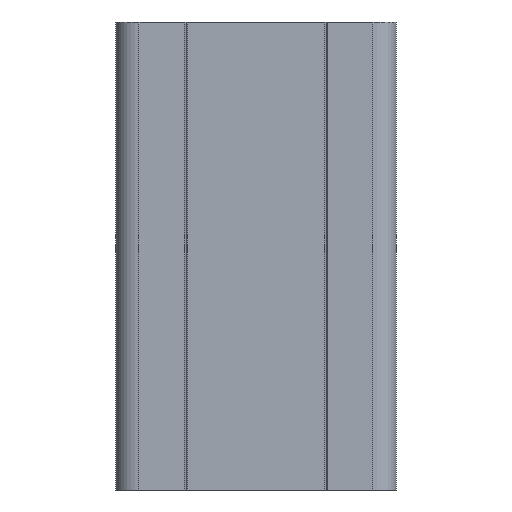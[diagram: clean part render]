
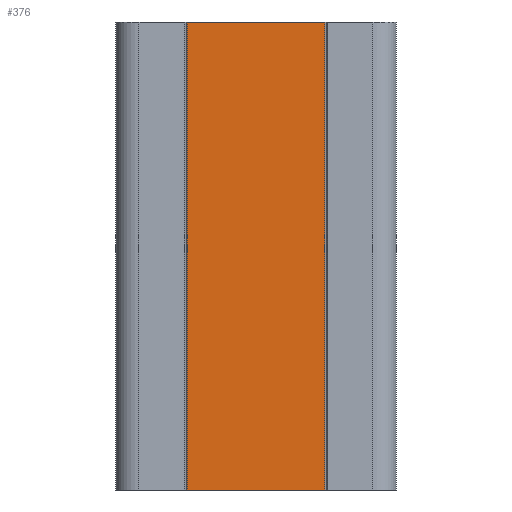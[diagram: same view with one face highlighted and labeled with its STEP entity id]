
A CAD part, front view. The second image highlights one B-rep face of the part: STEP entity #376.
In plain terms, the highlighted planar face has unit normal (0, -1, 0).
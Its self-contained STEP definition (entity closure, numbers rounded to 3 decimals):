
#8 = ORIENTED_EDGE ( 'NONE', *, *, #243, .F. ) ;
#72 = CARTESIAN_POINT ( 'NONE',  ( -14.711, -2.5, -50. ) ) ;
#129 = VERTEX_POINT ( 'NONE', #131 ) ;
#131 = CARTESIAN_POINT ( 'NONE',  ( 14.711, -2.5, 50. ) ) ;
#134 = VECTOR ( 'NONE', #287, 1000. ) ;
#140 = PLANE ( 'NONE',  #353 ) ;
#146 = VERTEX_POINT ( 'NONE', #363 ) ;
#150 = EDGE_CURVE ( 'NONE', #160, #129, #269, .T. ) ;
#159 = LINE ( 'NONE', #320, #134 ) ;
#160 = VERTEX_POINT ( 'NONE', #168 ) ;
#168 = CARTESIAN_POINT ( 'NONE',  ( -14.711, -2.5, 50. ) ) ;
#177 = ORIENTED_EDGE ( 'NONE', *, *, #150, .F. ) ;
#180 = DIRECTION ( 'NONE',  ( 0., 0., 1. ) ) ;
#184 = ORIENTED_EDGE ( 'NONE', *, *, #422, .T. ) ;
#191 = DIRECTION ( 'NONE',  ( 1., 0., 0. ) ) ;
#197 = EDGE_CURVE ( 'NONE', #425, #129, #335, .T. ) ;
#206 = CARTESIAN_POINT ( 'NONE',  ( 14.711, -2.5, -50. ) ) ;
#214 = ORIENTED_EDGE ( 'NONE', *, *, #197, .T. ) ;
#236 = DIRECTION ( 'NONE',  ( 1., 0., 0. ) ) ;
#242 = CARTESIAN_POINT ( 'NONE',  ( -14.711, -2.5, 50. ) ) ;
#243 = EDGE_CURVE ( 'NONE', #146, #160, #377, .T. ) ;
#269 = LINE ( 'NONE', #242, #359 ) ;
#274 = DIRECTION ( 'NONE',  ( 0., -1., 0. ) ) ;
#283 = VECTOR ( 'NONE', #180, 1000. ) ;
#287 = DIRECTION ( 'NONE',  ( 1., 0., 0. ) ) ;
#316 = EDGE_LOOP ( 'NONE', ( #177, #8, #184, #214 ) ) ;
#317 = CARTESIAN_POINT ( 'NONE',  ( 14.711, -2.5, -50. ) ) ;
#320 = CARTESIAN_POINT ( 'NONE',  ( -14.711, -2.5, -50. ) ) ;
#330 = DIRECTION ( 'NONE',  ( 0., 0., 1. ) ) ;
#335 = LINE ( 'NONE', #206, #416 ) ;
#353 = AXIS2_PLACEMENT_3D ( 'NONE', #369, #274, #191 ) ;
#359 = VECTOR ( 'NONE', #236, 1000. ) ;
#363 = CARTESIAN_POINT ( 'NONE',  ( -14.711, -2.5, -50. ) ) ;
#369 = CARTESIAN_POINT ( 'NONE',  ( -14.711, -2.5, -50. ) ) ;
#376 = ADVANCED_FACE ( 'NONE', ( #436 ), #140, .T. ) ;
#377 = LINE ( 'NONE', #72, #283 ) ;
#416 = VECTOR ( 'NONE', #330, 1000. ) ;
#422 = EDGE_CURVE ( 'NONE', #146, #425, #159, .T. ) ;
#425 = VERTEX_POINT ( 'NONE', #317 ) ;
#436 = FACE_OUTER_BOUND ( 'NONE', #316, .T. ) ;
